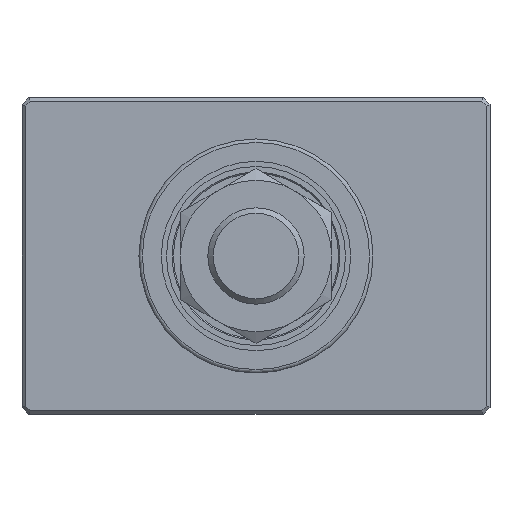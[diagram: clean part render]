
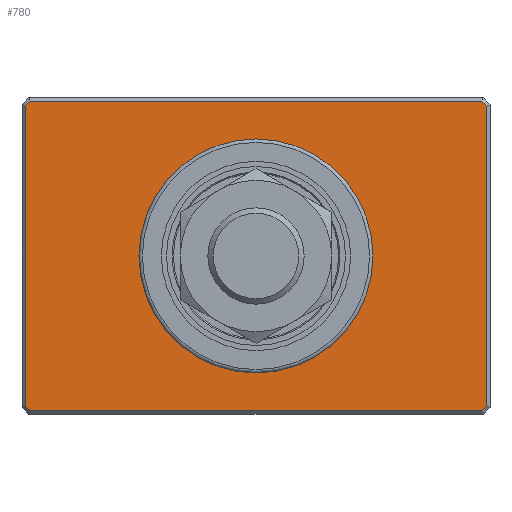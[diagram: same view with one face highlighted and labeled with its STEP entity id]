
A CAD part, front view. The second image highlights one B-rep face of the part: STEP entity #780.
In plain terms, the highlighted planar face has unit normal (0, -1, 0).
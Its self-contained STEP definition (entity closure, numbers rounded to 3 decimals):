
#524=CARTESIAN_POINT('',(32.793,-21.,-22.5));
#525=VERTEX_POINT('',#524);
#526=CARTESIAN_POINT('',(-32.793,-21.,-22.5));
#527=VERTEX_POINT('',#526);
#528=CARTESIAN_POINT('',(32.793,-21.,-22.5));
#529=DIRECTION('',(-1.0,0.0,0.0));
#530=VECTOR('',#529,65.586);
#531=LINE('',#528,#530);
#532=EDGE_CURVE('',#525,#527,#531,.T.);
#564=CARTESIAN_POINT('',(-33.5,-21.,-21.793));
#565=VERTEX_POINT('',#564);
#566=CARTESIAN_POINT('',(-32.793,-21.,-22.5));
#567=DIRECTION('',(-0.707,0.0,0.707));
#568=VECTOR('',#567,1.);
#569=LINE('',#566,#568);
#570=EDGE_CURVE('',#527,#565,#569,.T.);
#602=CARTESIAN_POINT('',(-33.5,-21.,21.793));
#603=VERTEX_POINT('',#602);
#604=CARTESIAN_POINT('',(-33.5,-21.,-21.793));
#605=DIRECTION('',(0.0,0.0,1.0));
#606=VECTOR('',#605,43.586);
#607=LINE('',#604,#606);
#608=EDGE_CURVE('',#565,#603,#607,.T.);
#624=CARTESIAN_POINT('',(32.793,-21.,22.5));
#625=VERTEX_POINT('',#624);
#626=CARTESIAN_POINT('',(33.5,-21.,21.793));
#627=VERTEX_POINT('',#626);
#628=CARTESIAN_POINT('',(32.793,-21.,22.5));
#629=DIRECTION('',(0.707,0.0,-0.707));
#630=VECTOR('',#629,1.);
#631=LINE('',#628,#630);
#632=EDGE_CURVE('',#625,#627,#631,.T.);
#655=CARTESIAN_POINT('',(-32.793,-21.,22.5));
#656=VERTEX_POINT('',#655);
#657=CARTESIAN_POINT('',(-32.793,-21.,22.5));
#658=DIRECTION('',(1.0,0.0,0.0));
#659=VECTOR('',#658,65.586);
#660=LINE('',#657,#659);
#661=EDGE_CURVE('',#656,#625,#660,.T.);
#679=CARTESIAN_POINT('',(-33.5,-21.,21.793));
#680=DIRECTION('',(0.707,0.0,0.707));
#681=VECTOR('',#680,1.);
#682=LINE('',#679,#681);
#683=EDGE_CURVE('',#603,#656,#682,.T.);
#698=CARTESIAN_POINT('',(33.5,-21.,-21.793));
#699=VERTEX_POINT('',#698);
#700=CARTESIAN_POINT('',(33.5,-21.,21.793));
#701=DIRECTION('',(0.0,0.0,-1.0));
#702=VECTOR('',#701,43.586);
#703=LINE('',#700,#702);
#704=EDGE_CURVE('',#627,#699,#703,.T.);
#720=CARTESIAN_POINT('',(33.5,-21.,-21.793));
#721=DIRECTION('',(-0.707,0.0,-0.707));
#722=VECTOR('',#721,1.);
#723=LINE('',#720,#722);
#724=EDGE_CURVE('',#699,#525,#723,.T.);
#754=CARTESIAN_POINT('',(0.0,-21.,-23.));
#755=DIRECTION('',(0.0,-1.0,0.0));
#756=DIRECTION('',(0.0,0.0,-1.0));
#757=AXIS2_PLACEMENT_3D('',#754,#755,#756);
#758=PLANE('',#757);
#759=ORIENTED_EDGE('',*,*,#632,.F.);
#760=ORIENTED_EDGE('',*,*,#661,.F.);
#761=ORIENTED_EDGE('',*,*,#683,.F.);
#762=ORIENTED_EDGE('',*,*,#608,.F.);
#763=ORIENTED_EDGE('',*,*,#570,.F.);
#764=ORIENTED_EDGE('',*,*,#532,.F.);
#765=ORIENTED_EDGE('',*,*,#724,.F.);
#766=ORIENTED_EDGE('',*,*,#704,.F.);
#767=EDGE_LOOP('',(#759,#760,#761,#762,#763,#764,#765,#766));
#768=FACE_OUTER_BOUND('',#767,.T.);
#769=CARTESIAN_POINT('',(0.0,-21.,17.0));
#770=VERTEX_POINT('',#769);
#771=CARTESIAN_POINT('',(0.0,-21.,0.0));
#772=DIRECTION('',(0.0,1.0,0.0));
#773=DIRECTION('',(0.0,0.0,1.0));
#774=AXIS2_PLACEMENT_3D('',#771,#772,#773);
#775=CIRCLE('',#774,17.0);
#776=EDGE_CURVE('',#770,#770,#775,.T.);
#777=ORIENTED_EDGE('',*,*,#776,.T.);
#778=EDGE_LOOP('',(#777));
#779=FACE_BOUND('',#778,.T.);
#780=ADVANCED_FACE('',(#768,#779),#758,.T.);
